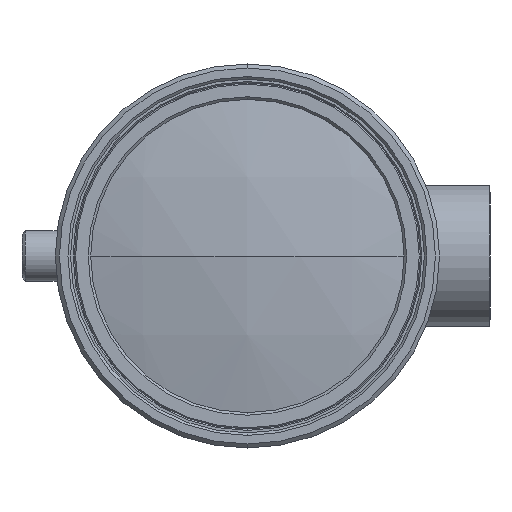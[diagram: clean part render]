
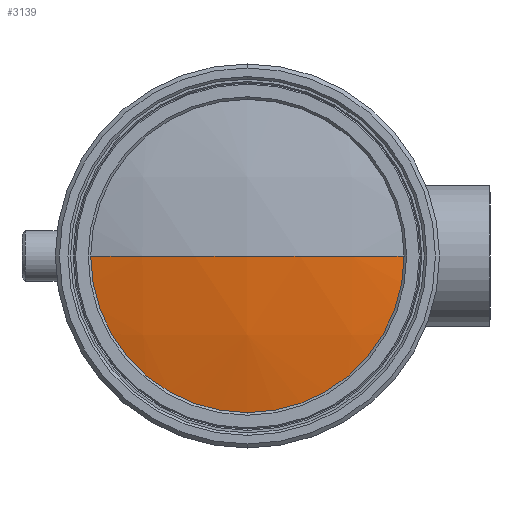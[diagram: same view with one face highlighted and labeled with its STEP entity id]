
A CAD part, left-side view. The second image highlights one B-rep face of the part: STEP entity #3139.
In plain terms, the highlighted spherical face has radius 66.5 mm.
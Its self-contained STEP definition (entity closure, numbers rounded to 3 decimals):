
#183 = CARTESIAN_POINT ( 'NONE',  ( 70.066, 0., 0. ) ) ;
#269 = CARTESIAN_POINT ( 'NONE',  ( 70.066, 0., 0. ) ) ;
#288 = CARTESIAN_POINT ( 'NONE',  ( 3.566, 0., 0. ) ) ;
#316 = ORIENTED_EDGE ( 'NONE', *, *, #1603, .T. ) ;
#524 = DIRECTION ( 'NONE',  ( 1., 0., 0. ) ) ;
#538 = CIRCLE ( 'NONE', #4096, 66.5 ) ;
#554 = VERTEX_POINT ( 'NONE', #1055 ) ;
#598 = AXIS2_PLACEMENT_3D ( 'NONE', #2749, #712, #3089 ) ;
#712 = DIRECTION ( 'NONE',  ( -1., 0., 0. ) ) ;
#956 = CIRCLE ( 'NONE', #1621, 15.5 ) ;
#1055 = CARTESIAN_POINT ( 'NONE',  ( 5.397, -15.5, 0. ) ) ;
#1237 = CIRCLE ( 'NONE', #598, 15.5 ) ;
#1238 = ORIENTED_EDGE ( 'NONE', *, *, #1522, .F. ) ;
#1444 = EDGE_LOOP ( 'NONE', ( #3835, #316, #1238, #2161 ) ) ;
#1465 = EDGE_CURVE ( 'NONE', #1601, #554, #956, .T. ) ;
#1522 = EDGE_CURVE ( 'NONE', #2961, #2839, #1674, .T. ) ;
#1564 = DIRECTION ( 'NONE',  ( -1., 0., 0. ) ) ;
#1601 = VERTEX_POINT ( 'NONE', #4389 ) ;
#1603 = EDGE_CURVE ( 'NONE', #554, #2839, #538, .T. ) ;
#1621 = AXIS2_PLACEMENT_3D ( 'NONE', #3350, #1564, #3692 ) ;
#1641 = EDGE_CURVE ( 'NONE', #2961, #1601, #1237, .T. ) ;
#1674 = CIRCLE ( 'NONE', #3418, 66.5 ) ;
#1734 = CARTESIAN_POINT ( 'NONE',  ( 70.066, 0., 0. ) ) ;
#2082 = DIRECTION ( 'NONE',  ( 0., 1., 0. ) ) ;
#2161 = ORIENTED_EDGE ( 'NONE', *, *, #1641, .T. ) ;
#2337 = DIRECTION ( 'NONE',  ( 0., 0., -1. ) ) ;
#2578 = DIRECTION ( 'NONE',  ( 0., 0., 1. ) ) ;
#2658 = DIRECTION ( 'NONE',  ( 0., 1., 0. ) ) ;
#2749 = CARTESIAN_POINT ( 'NONE',  ( 5.397, 0., 0. ) ) ;
#2839 = VERTEX_POINT ( 'NONE', #288 ) ;
#2961 = VERTEX_POINT ( 'NONE', #3902 ) ;
#2995 = SPHERICAL_SURFACE ( 'NONE', #3439, 66.5 ) ;
#3089 = DIRECTION ( 'NONE',  ( 0., 0., 1. ) ) ;
#3104 = FACE_OUTER_BOUND ( 'NONE', #1444, .T. ) ;
#3139 = ADVANCED_FACE ( 'NONE', ( #3104 ), #2995, .T. ) ;
#3350 = CARTESIAN_POINT ( 'NONE',  ( 5.397, 0., 0. ) ) ;
#3418 = AXIS2_PLACEMENT_3D ( 'NONE', #183, #2578, #524 ) ;
#3439 = AXIS2_PLACEMENT_3D ( 'NONE', #269, #2337, #2658 ) ;
#3692 = DIRECTION ( 'NONE',  ( 0., 0., 1. ) ) ;
#3835 = ORIENTED_EDGE ( 'NONE', *, *, #1465, .T. ) ;
#3902 = CARTESIAN_POINT ( 'NONE',  ( 5.397, 15.5, 0. ) ) ;
#4068 = DIRECTION ( 'NONE',  ( 0., 0., -1. ) ) ;
#4096 = AXIS2_PLACEMENT_3D ( 'NONE', #1734, #4068, #2082 ) ;
#4389 = CARTESIAN_POINT ( 'NONE',  ( 5.397, 0., -15.5 ) ) ;
